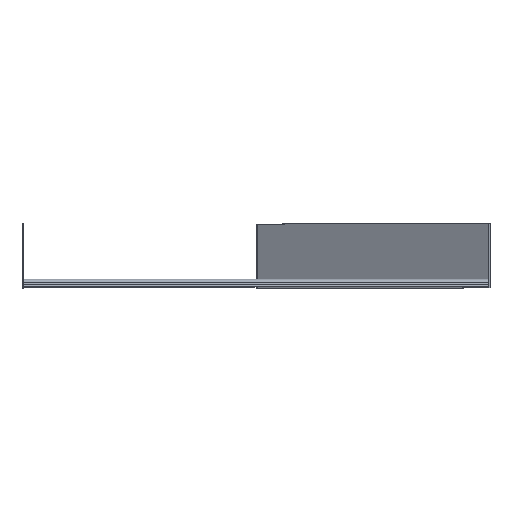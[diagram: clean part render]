
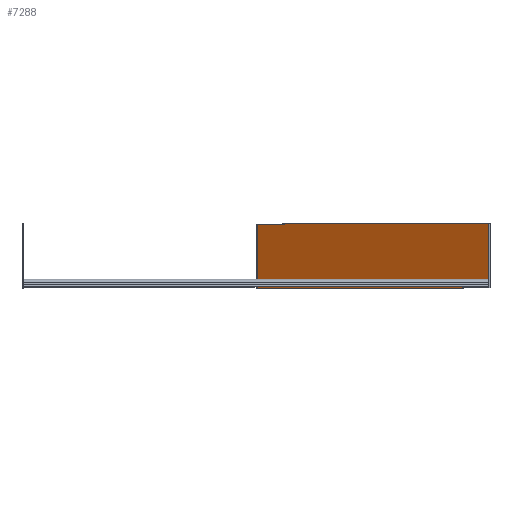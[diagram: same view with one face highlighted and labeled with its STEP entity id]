
A CAD part, top view. The second image highlights one B-rep face of the part: STEP entity #7288.
In plain terms, the highlighted planar face has unit normal (-0.528, 0, 0.849).
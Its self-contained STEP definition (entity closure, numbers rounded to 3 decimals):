
#710 = CARTESIAN_POINT ( 'NONE',  ( 675., 124., 0. ) ) ;
#1056 = VECTOR ( 'NONE', #3586, 1000. ) ;
#1093 = ORIENTED_EDGE ( 'NONE', *, *, #11235, .F. ) ;
#1674 = DIRECTION ( 'NONE',  ( 0.849, 0., 0.528 ) ) ;
#1774 = CARTESIAN_POINT ( 'NONE',  ( 226.651, 124., -278.973 ) ) ;
#2683 = DIRECTION ( 'NONE',  ( -0.528, 0., 0.849 ) ) ;
#3586 = DIRECTION ( 'NONE',  ( -0.849, 0., -0.528 ) ) ;
#3941 = FACE_OUTER_BOUND ( 'NONE', #11519, .T. ) ;
#3982 = LINE ( 'NONE', #11244, #8936 ) ;
#4400 = DIRECTION ( 'NONE',  ( 0., 1., 0. ) ) ;
#4638 = LINE ( 'NONE', #710, #1056 ) ;
#4972 = DIRECTION ( 'NONE',  ( -0.849, 0., -0.528 ) ) ;
#5026 = CARTESIAN_POINT ( 'NONE',  ( 674.292, 0., -0.44 ) ) ;
#5257 = VECTOR ( 'NONE', #4400, 1000. ) ;
#5458 = LINE ( 'NONE', #7519, #5257 ) ;
#6033 = ORIENTED_EDGE ( 'NONE', *, *, #6113, .T. ) ;
#6113 = EDGE_CURVE ( 'NONE', #10622, #12259, #5458, .T. ) ;
#6735 = PLANE ( 'NONE',  #8240 ) ;
#7098 = ORIENTED_EDGE ( 'NONE', *, *, #7264, .F. ) ;
#7256 = ORIENTED_EDGE ( 'NONE', *, *, #10408, .T. ) ;
#7264 = EDGE_CURVE ( 'NONE', #11548, #9373, #10923, .T. ) ;
#7288 = ADVANCED_FACE ( 'NONE', ( #3941 ), #6735, .T. ) ;
#7519 = CARTESIAN_POINT ( 'NONE',  ( 674.292, 0., -0.44 ) ) ;
#7800 = CARTESIAN_POINT ( 'NONE',  ( 675., 124., 0. ) ) ;
#8240 = AXIS2_PLACEMENT_3D ( 'NONE', #7800, #2683, #1674 ) ;
#8936 = VECTOR ( 'NONE', #4972, 1000. ) ;
#9081 = VECTOR ( 'NONE', #9859, 1000. ) ;
#9373 = VERTEX_POINT ( 'NONE', #1774 ) ;
#9522 = CARTESIAN_POINT ( 'NONE',  ( 674.292, 124., -0.44 ) ) ;
#9619 = CARTESIAN_POINT ( 'NONE',  ( 226.651, 0., -278.973 ) ) ;
#9859 = DIRECTION ( 'NONE',  ( 0., 1., 0. ) ) ;
#10408 = EDGE_CURVE ( 'NONE', #12259, #9373, #4638, .T. ) ;
#10622 = VERTEX_POINT ( 'NONE', #5026 ) ;
#10923 = LINE ( 'NONE', #12998, #9081 ) ;
#11235 = EDGE_CURVE ( 'NONE', #10622, #11548, #3982, .T. ) ;
#11244 = CARTESIAN_POINT ( 'NONE',  ( 675., 0., 0. ) ) ;
#11519 = EDGE_LOOP ( 'NONE', ( #7098, #1093, #6033, #7256 ) ) ;
#11548 = VERTEX_POINT ( 'NONE', #9619 ) ;
#12259 = VERTEX_POINT ( 'NONE', #9522 ) ;
#12998 = CARTESIAN_POINT ( 'NONE',  ( 226.651, 0., -278.973 ) ) ;
